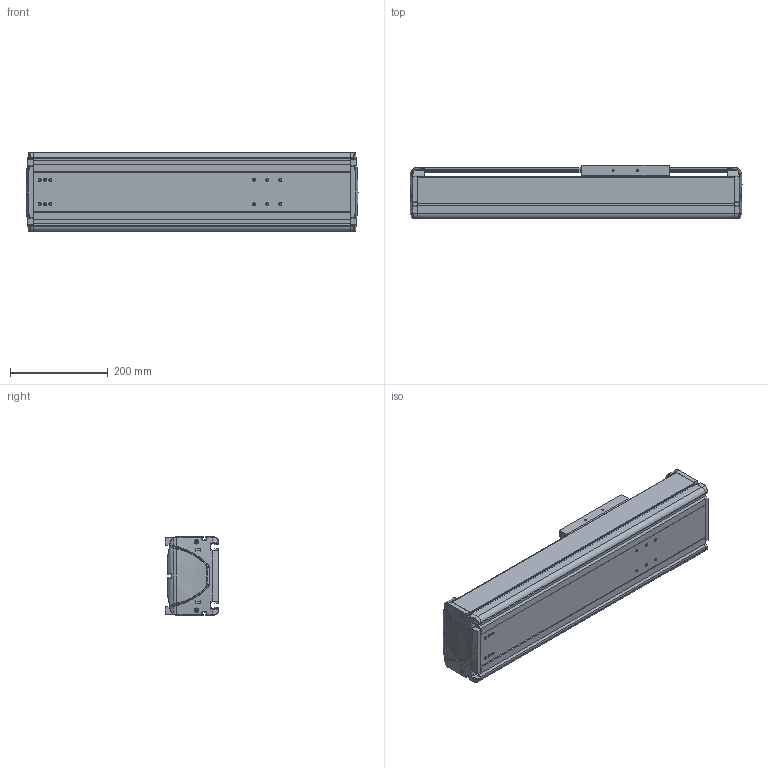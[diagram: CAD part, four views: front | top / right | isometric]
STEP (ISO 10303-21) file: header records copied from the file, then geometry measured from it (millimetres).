
FILE_DESCRIPTION((''),'2;1');
FILE_NAME('BE50G-ST-M_N-30_IGS_PRT','2017-06-18T',(' '),(''),'PRO/ENGINEER BY PARAMETRIC TECHNOLOGY CORPORATION, 2015030','PRO/ENGINEER BY PARAMETRIC TECHNOLOGY CORPORATION, 2015030','');
FILE_SCHEMA(('CONFIG_CONTROL_DESIGN'));
Length unit declared in the file: millimetre
Products named in the file (1): BE50G-ST-M_N-30_IGS_PRT
Bounding box: 679.98 x 110 x 160 mm (x, y, z)
Volume: 2981282.7 mm3; surface area: 1118915.7 mm2
Topology: 7 solids, 72 shells, 1474 faces, 3832 edges, 2457 vertices
Faces by surface type: cylinder 618, plane 571, bspline 110, torus 87, cone 48, sphere 40
Entity records: 50591 total; most frequent: CARTESIAN_POINT 14722, DIRECTION 7382, ORIENTED_EDGE 7364, EDGE_CURVE 3814, AXIS2_PLACEMENT_3D 2736, VERTEX_POINT 2457, VECTOR 1910, LINE 1910
